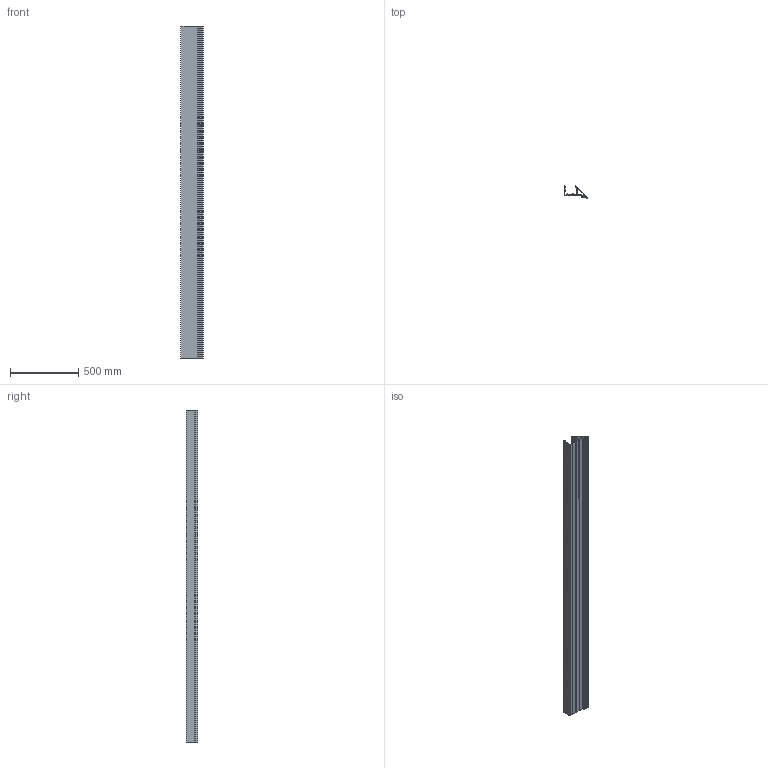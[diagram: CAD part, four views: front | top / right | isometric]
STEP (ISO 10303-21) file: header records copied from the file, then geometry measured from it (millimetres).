
FILE_DESCRIPTION (( 'STEP AP203' ), '1' );
FILE_NAME ('TROV 2 KNIFE EDGE COVE 96IN.STEP', '2023-05-24T20:46:13', ( '' ), ( '' ), 'SwSTEP 2.0', 'SolidWorks 2022', '' );
FILE_SCHEMA (( 'CONFIG_CONTROL_DESIGN' ));
Length unit declared in the file: millimetre
Products named in the file (1): TROV 2 KNIFE EDGE COVE 96IN
Bounding box: 168.29 x 85.43 x 2438.4 mm (x, y, z)
Volume: 2500931.2 mm3; surface area: 2382520.4 mm2
Topology: 1 solids, 1 shells, 150 faces, 440 edges, 292 vertices
Faces by surface type: cylinder 83, plane 58, bspline 9
Entity records: 5576 total; most frequent: CARTESIAN_POINT 1470, ORIENTED_EDGE 880, DIRECTION 842, EDGE_CURVE 440, AXIS2_PLACEMENT_3D 300, VERTEX_POINT 292, VECTOR 242, LINE 242
